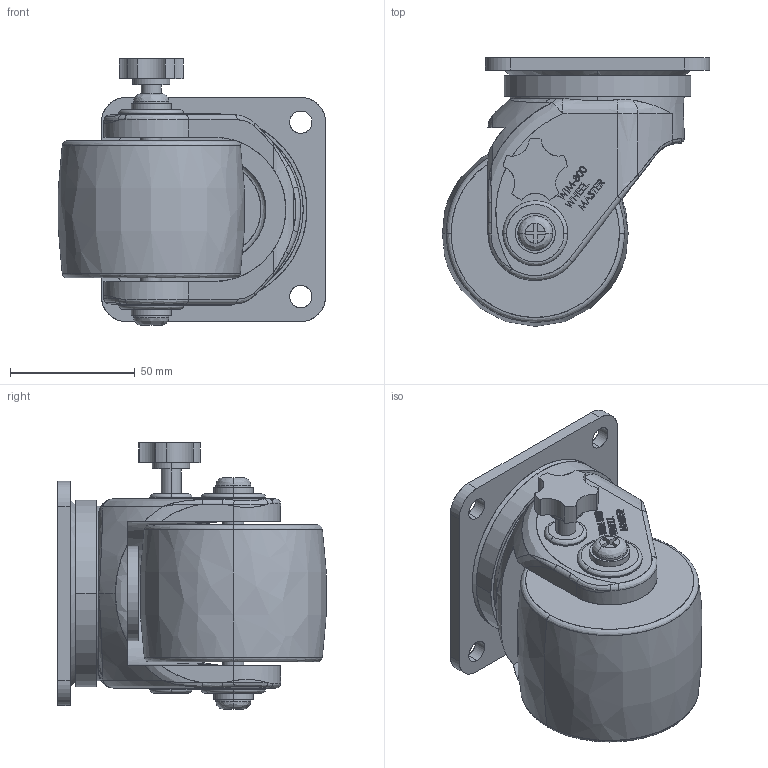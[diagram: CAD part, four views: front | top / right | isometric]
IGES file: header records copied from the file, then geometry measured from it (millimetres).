
Start section: SolidWorks IGES file using analytic representation for surfaces
Bounding box: 107.3 x 107.8 x 107 mm (x, y, z)
Surface area: 88082 mm2 (no closed solid volume)
Topology: 0 solids, 0 shells, 670 faces, 8937 edges, 8933 vertices
Faces by surface type: bspline 562, revolution 108
